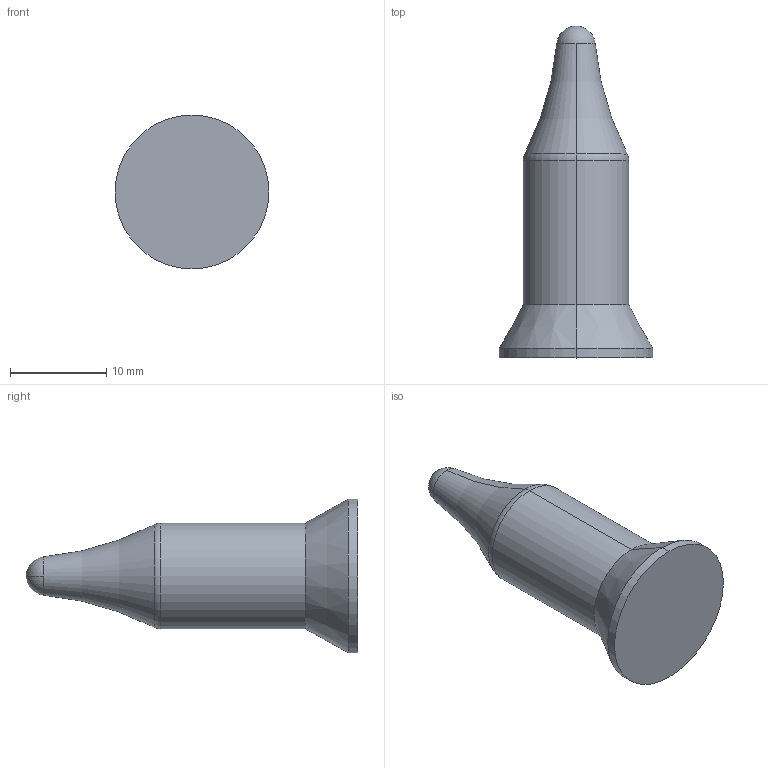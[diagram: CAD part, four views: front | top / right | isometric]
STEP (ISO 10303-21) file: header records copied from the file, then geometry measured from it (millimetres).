
FILE_DESCRIPTION (( 'STEP AP203' ), '1' );
FILE_NAME ('KCF-SW-PN-10P.STEP', '2022-04-05T06:49:07', ( '' ), ( '' ), 'SwSTEP 2.0', 'SolidWorks 2015', '' );
FILE_SCHEMA (( 'CONFIG_CONTROL_DESIGN' ));
Length unit declared in the file: millimetre
Products named in the file (2): KCF-SW-PN-10P
Bounding box: 16 x 34.5 x 16 mm (x, y, z)
Volume: 2773.8 mm3; surface area: 1284.2 mm2
Topology: 1 solids, 1 shells, 13 faces, 26 edges, 15 vertices
Faces by surface type: cylinder 4, torus 4, cone 2, sphere 2, plane 1
Entity records: 499 total; most frequent: DIRECTION 76, CARTESIAN_POINT 56, ORIENTED_EDGE 52, AXIS2_PLACEMENT_3D 35, EDGE_CURVE 26, CIRCLE 20, PERSON_AND_ORGANIZATION 16, VERTEX_POINT 15
